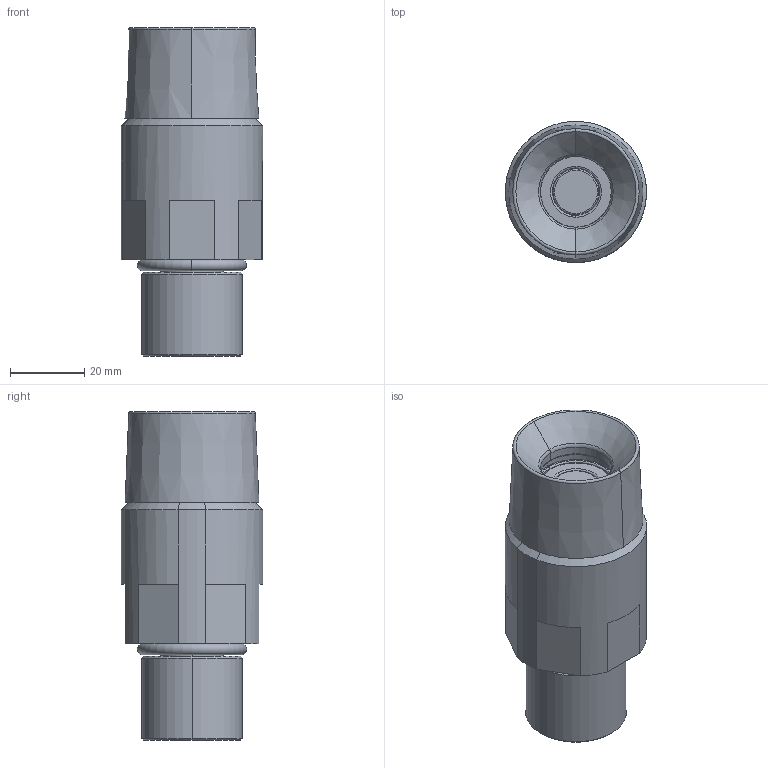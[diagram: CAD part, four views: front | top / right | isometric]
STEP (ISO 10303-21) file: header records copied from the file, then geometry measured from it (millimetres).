
FILE_DESCRIPTION((''),'2;1');
FILE_NAME('PBMC_SOCKET_SPEC_ASM','2026-03-18T12:38:59',('gpcharest'),(''),'CREO PARAMETRIC BY PTC INC, 2025234','CREO PARAMETRIC BY PTC INC, 2025234','');
FILE_SCHEMA(('CONFIG_CONTROL_DESIGN'));
Length unit declared in the file: millimetre
Products named in the file (3): PBMC_SOCKET_BASE_SPEC; PBMC_SOCKET_CONE_SPEC; PBMC_SOCKET_SPEC_ASM
Assembly tree (2 placements, depth 2):
  PBMC_SOCKET_SPEC_ASM
    PBMC_SOCKET_BASE_SPEC
    PBMC_SOCKET_CONE_SPEC
Bounding box: 37.96 x 38 x 88.42 mm (x, y, z)
Volume: 71455.5 mm3; surface area: 17478.6 mm2
Topology: 5 solids, 5 shells, 70 faces, 146 edges, 88 vertices
Faces by surface type: plane 24, cylinder 20, torus 16, cone 10
Entity records: 1972 total; most frequent: DIRECTION 388, CARTESIAN_POINT 309, ORIENTED_EDGE 292, AXIS2_PLACEMENT_3D 167, EDGE_CURVE 146, CIRCLE 92, VERTEX_POINT 88, EDGE_LOOP 78
